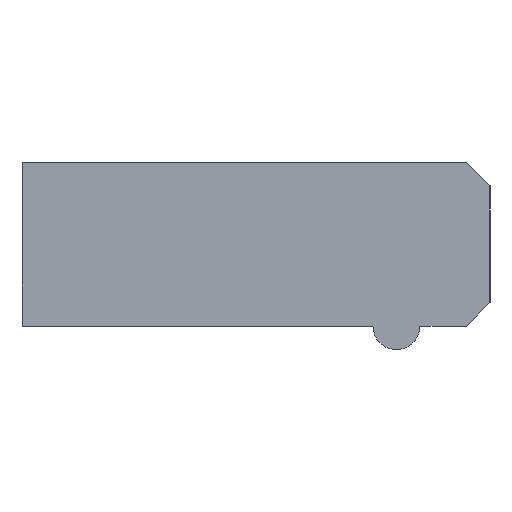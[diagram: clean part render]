
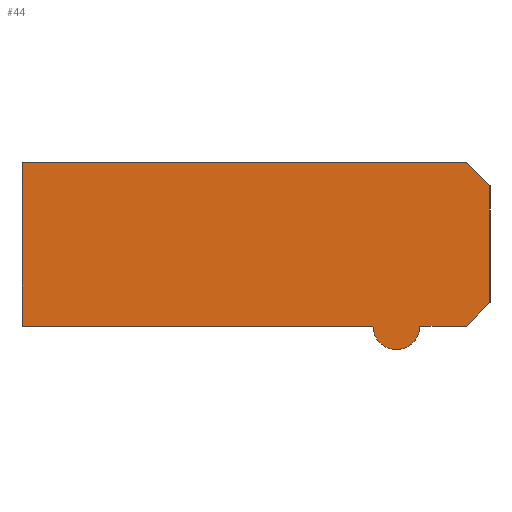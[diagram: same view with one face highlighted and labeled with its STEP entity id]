
A CAD part, left-side view. The second image highlights one B-rep face of the part: STEP entity #44.
In plain terms, the highlighted planar face has unit normal (-1, 0, 0).
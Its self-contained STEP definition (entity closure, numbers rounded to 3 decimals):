
#44 = ADVANCED_FACE( '', ( #92 ), #93, .F. );
#92 = FACE_OUTER_BOUND( '', #145, .T. );
#93 = PLANE( '', #146 );
#145 = EDGE_LOOP( '', ( #207, #208, #209, #210, #211, #212, #213, #214 ) );
#146 = AXIS2_PLACEMENT_3D( '', #215, #216, #217 );
#207 = ORIENTED_EDGE( '', *, *, #295, .F. );
#208 = ORIENTED_EDGE( '', *, *, #310, .F. );
#209 = ORIENTED_EDGE( '', *, *, #305, .F. );
#210 = ORIENTED_EDGE( '', *, *, #311, .F. );
#211 = ORIENTED_EDGE( '', *, *, #312, .F. );
#212 = ORIENTED_EDGE( '', *, *, #313, .F. );
#213 = ORIENTED_EDGE( '', *, *, #300, .F. );
#214 = ORIENTED_EDGE( '', *, *, #314, .F. );
#215 = CARTESIAN_POINT( '', ( -6., -16., -3.5 ) );
#216 = DIRECTION( '', ( 1., 0., 0. ) );
#217 = DIRECTION( '', ( 0., 0., -1. ) );
#295 = EDGE_CURVE( '', #337, #338, #339, .T. );
#300 = EDGE_CURVE( '', #346, #347, #348, .T. );
#305 = EDGE_CURVE( '', #355, #356, #357, .T. );
#310 = EDGE_CURVE( '', #356, #337, #364, .T. );
#311 = EDGE_CURVE( '', #365, #355, #366, .T. );
#312 = EDGE_CURVE( '', #367, #365, #368, .T. );
#313 = EDGE_CURVE( '', #347, #367, #369, .T. );
#314 = EDGE_CURVE( '', #338, #346, #370, .T. );
#337 = VERTEX_POINT( '', #399 );
#338 = VERTEX_POINT( '', #400 );
#339 = LINE( '', #401, #402 );
#346 = VERTEX_POINT( '', #412 );
#347 = VERTEX_POINT( '', #413 );
#348 = LINE( '', #414, #415 );
#355 = VERTEX_POINT( '', #425 );
#356 = VERTEX_POINT( '', #426 );
#357 = LINE( '', #427, #428 );
#364 = LINE( '', #438, #439 );
#365 = VERTEX_POINT( '', #440 );
#366 = CIRCLE( '', #441, 1. );
#367 = VERTEX_POINT( '', #442 );
#368 = LINE( '', #443, #444 );
#369 = LINE( '', #445, #446 );
#370 = LINE( '', #447, #448 );
#399 = CARTESIAN_POINT( '', ( -6., 0., 3.5 ) );
#400 = CARTESIAN_POINT( '', ( -6., -19., 3.5 ) );
#401 = CARTESIAN_POINT( '', ( -6., 0., 3.5 ) );
#402 = VECTOR( '', #482, 1000. );
#412 = CARTESIAN_POINT( '', ( -6., -20., 2.5 ) );
#413 = CARTESIAN_POINT( '', ( -6., -20., -2.5 ) );
#414 = CARTESIAN_POINT( '', ( -6., -20., 2.5 ) );
#415 = VECTOR( '', #486, 1000. );
#425 = CARTESIAN_POINT( '', ( -6., -15., -3.5 ) );
#426 = CARTESIAN_POINT( '', ( -6., 0., -3.5 ) );
#427 = CARTESIAN_POINT( '', ( -6., -15., -3.5 ) );
#428 = VECTOR( '', #490, 1000. );
#438 = CARTESIAN_POINT( '', ( -6., 0., -3.5 ) );
#439 = VECTOR( '', #494, 1000. );
#440 = CARTESIAN_POINT( '', ( -6., -17., -3.5 ) );
#441 = AXIS2_PLACEMENT_3D( '', #495, #496, #497 );
#442 = CARTESIAN_POINT( '', ( -6., -19., -3.5 ) );
#443 = CARTESIAN_POINT( '', ( -6., -19., -3.5 ) );
#444 = VECTOR( '', #498, 1000. );
#445 = CARTESIAN_POINT( '', ( -6., -20., -2.5 ) );
#446 = VECTOR( '', #499, 1000. );
#447 = CARTESIAN_POINT( '', ( -6., -19., 3.5 ) );
#448 = VECTOR( '', #500, 1000. );
#482 = DIRECTION( '', ( 0., -1., 0. ) );
#486 = DIRECTION( '', ( 0., 0., -1. ) );
#490 = DIRECTION( '', ( 0., 1., 0. ) );
#494 = DIRECTION( '', ( 0., 0., 1. ) );
#495 = CARTESIAN_POINT( '', ( -6., -16., -3.5 ) );
#496 = DIRECTION( '', ( 1., 0., 0. ) );
#497 = DIRECTION( '', ( 0., 0., -1. ) );
#498 = DIRECTION( '', ( 0., 1., 0. ) );
#499 = DIRECTION( '', ( 0., 0.707, -0.707 ) );
#500 = DIRECTION( '', ( 0., -0.707, -0.707 ) );
